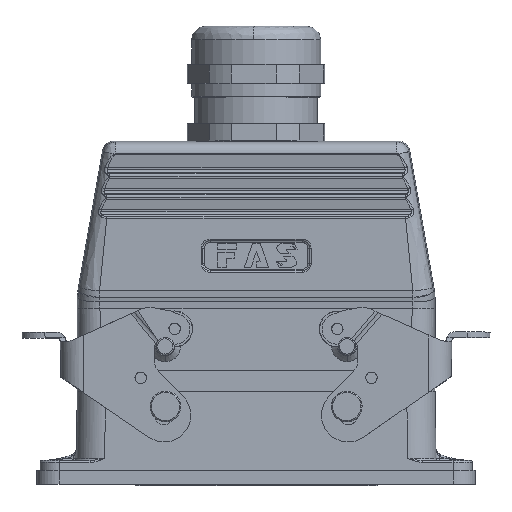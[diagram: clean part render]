
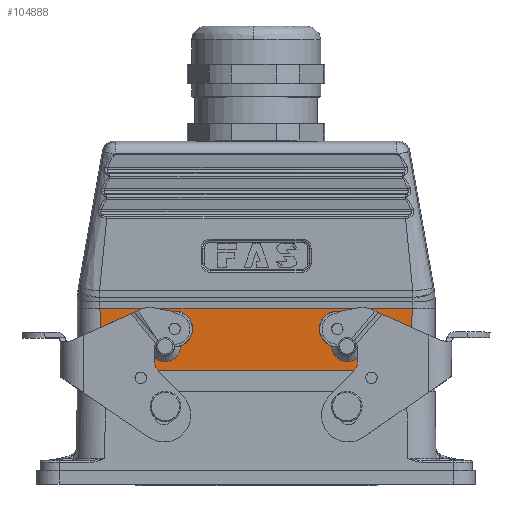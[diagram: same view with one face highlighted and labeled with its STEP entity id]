
A CAD part, top view. The second image highlights one B-rep face of the part: STEP entity #104888.
In plain terms, the highlighted planar face has unit normal (0, 0, 1) as drawn and (0, -1, 0) by its records, which use the part's own axes.
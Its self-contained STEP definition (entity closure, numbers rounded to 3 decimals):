
#657 = CARTESIAN_POINT ( 'NONE',  ( -40.421, -21.5, 8.166 ) ) ;
#2824 = AXIS2_PLACEMENT_3D ( 'NONE', #37104, #13213, #79404 ) ;
#3384 = VERTEX_POINT ( 'NONE', #111759 ) ;
#6299 = DIRECTION ( 'NONE',  ( 0., 0., 1. ) ) ;
#6881 = DIRECTION ( 'NONE',  ( -1., 0., 0. ) ) ;
#7628 = DIRECTION ( 'NONE',  ( 0., 1., 0. ) ) ;
#7682 = VERTEX_POINT ( 'NONE', #87208 ) ;
#9541 = CIRCLE ( 'NONE', #91133, 4. ) ;
#11343 = CARTESIAN_POINT ( 'NONE',  ( -40.44, -21.5, 8.473 ) ) ;
#12212 = CARTESIAN_POINT ( 'NONE',  ( -40.713, -21.5, 13.357 ) ) ;
#12399 = FACE_BOUND ( 'NONE', #167480, .T. ) ;
#13213 = DIRECTION ( 'NONE',  ( 0., 1., 0. ) ) ;
#13937 = CARTESIAN_POINT ( 'NONE',  ( -40.163, -21.5, 4.123 ) ) ;
#14809 = CARTESIAN_POINT ( 'NONE',  ( -40.684, -21.5, 12.782 ) ) ;
#18489 = B_SPLINE_CURVE_WITH_KNOTS ( 'NONE', 3,
 ( #81830, #104807, #67712, #12212, #14809, #147921, #65127, #122323, #160255, #119792, #132103, #146217, #173481, #120646, #11343, #95021, #40414, #38708, #657, #24626, #39565, #66006, #28062, #93301, #27213, #145333, #80987, #134676, #13937, #148794, #121478, #51077, #53659, #161102 ),
 .UNSPECIFIED., .F., .F.,
 ( 4, 1, 1, 1, 1, 1, 2, 2, 1, 1, 1, 1, 1, 1, 1, 2, 2, 1, 1, 1, 1, 1, 1, 2, 2, 4 ),
 ( 0., 0.125, 0.188, 0.219, 0.234, 0.242, 0.246, 0.25, 0.375, 0.438, 0.469, 0.484, 0.492, 0.496, 0.498, 0.499, 0.5, 0.625, 0.688, 0.719, 0.734, 0.742, 0.746, 0.748, 0.75, 1. ),
 .UNSPECIFIED. ) ;
#19300 = CARTESIAN_POINT ( 'NONE',  ( -73.25, -21.5, 16.289 ) ) ;
#20485 = VERTEX_POINT ( 'NONE', #29654 ) ;
#23793 = ORIENTED_EDGE ( 'NONE', *, *, #155435, .F. ) ;
#24626 = CARTESIAN_POINT ( 'NONE',  ( -40.42, -21.5, 8.154 ) ) ;
#24810 = DIRECTION ( 'NONE',  ( 0., -1., 0. ) ) ;
#25998 = CARTESIAN_POINT ( 'NONE',  ( 39.889, -21.5, 0. ) ) ;
#26206 = VERTEX_POINT ( 'NONE', #102342 ) ;
#27213 = CARTESIAN_POINT ( 'NONE',  ( -40.206, -21.5, 4.795 ) ) ;
#27465 = ORIENTED_EDGE ( 'NONE', *, *, #157820, .T. ) ;
#28062 = CARTESIAN_POINT ( 'NONE',  ( -40.331, -21.5, 6.744 ) ) ;
#29654 = CARTESIAN_POINT ( 'NONE',  ( -23.75, -21.5, 2.3 ) ) ;
#35139 = CARTESIAN_POINT ( 'NONE',  ( 40.706, -21.5, 12.744 ) ) ;
#36859 = CARTESIAN_POINT ( 'NONE',  ( 39.889, -21.5, 0. ) ) ;
#37104 = CARTESIAN_POINT ( 'NONE',  ( 23.75, -21.5, 6.3 ) ) ;
#38708 = CARTESIAN_POINT ( 'NONE',  ( -40.422, -21.5, 8.183 ) ) ;
#39565 = CARTESIAN_POINT ( 'NONE',  ( -40.419, -21.5, 8.146 ) ) ;
#40414 = CARTESIAN_POINT ( 'NONE',  ( -40.424, -21.5, 8.225 ) ) ;
#42058 = CARTESIAN_POINT ( 'NONE',  ( 40.845, -21.5, 16.289 ) ) ;
#43090 = LINE ( 'NONE', #111847, #169083 ) ;
#50090 = CARTESIAN_POINT ( 'NONE',  ( 40.012, -21.5, 1.888 ) ) ;
#51077 = CARTESIAN_POINT ( 'NONE',  ( -40.06, -21.5, 2.546 ) ) ;
#51167 = DIRECTION ( 'NONE',  ( 0., 1., 0. ) ) ;
#52044 = DIRECTION ( 'NONE',  ( 0., 0., 1. ) ) ;
#53659 = CARTESIAN_POINT ( 'NONE',  ( -39.97, -21.5, 1.189 ) ) ;
#53831 = FACE_OUTER_BOUND ( 'NONE', #84543, .T. ) ;
#57855 = EDGE_CURVE ( 'NONE', #134303, #7682, #128506, .T. ) ;
#62518 = VECTOR ( 'NONE', #6881, 1000. ) ;
#63222 = VERTEX_POINT ( 'NONE', #25998 ) ;
#64610 = AXIS2_PLACEMENT_3D ( 'NONE', #107566, #24810, #91785 ) ;
#65127 = CARTESIAN_POINT ( 'NONE',  ( -40.662, -21.5, 12.356 ) ) ;
#66006 = CARTESIAN_POINT ( 'NONE',  ( -40.387, -21.5, 7.634 ) ) ;
#67712 = CARTESIAN_POINT ( 'NONE',  ( -40.769, -21.5, 14.531 ) ) ;
#69112 = CARTESIAN_POINT ( 'NONE',  ( 23.75, -21.5, 2.3 ) ) ;
#71456 = ORIENTED_EDGE ( 'NONE', *, *, #87436, .T. ) ;
#72071 = ORIENTED_EDGE ( 'NONE', *, *, #57855, .T. ) ;
#75496 = EDGE_CURVE ( 'NONE', #145163, #155172, #84609, .T. ) ;
#79404 = DIRECTION ( 'NONE',  ( 0., 0., 1. ) ) ;
#80987 = CARTESIAN_POINT ( 'NONE',  ( -40.171, -21.5, 4.255 ) ) ;
#81804 = CIRCLE ( 'NONE', #135244, 4. ) ;
#81830 = CARTESIAN_POINT ( 'NONE',  ( -40.845, -21.5, 16.289 ) ) ;
#84543 = EDGE_LOOP ( 'NONE', ( #129553, #106096, #23793, #72071 ) ) ;
#84609 = CIRCLE ( 'NONE', #2824, 4. ) ;
#87208 = CARTESIAN_POINT ( 'NONE',  ( -40.845, -21.5, 16.289 ) ) ;
#87436 = EDGE_CURVE ( 'NONE', #3384, #20485, #160035, .T. ) ;
#91133 = AXIS2_PLACEMENT_3D ( 'NONE', #168448, #141149, #6299 ) ;
#91690 = CARTESIAN_POINT ( 'NONE',  ( 23.75, -21.5, 6.3 ) ) ;
#91785 = DIRECTION ( 'NONE',  ( 0., 0., -1. ) ) ;
#93301 = CARTESIAN_POINT ( 'NONE',  ( -40.25, -21.5, 5.482 ) ) ;
#95021 = CARTESIAN_POINT ( 'NONE',  ( -40.429, -21.5, 8.308 ) ) ;
#102342 = CARTESIAN_POINT ( 'NONE',  ( -39.889, -21.5, 0. ) ) ;
#104807 = CARTESIAN_POINT ( 'NONE',  ( -40.815, -21.5, 15.576 ) ) ;
#104888 = ADVANCED_FACE ( 'NONE', ( #53831, #133151, #12399 ), #160437, .T. ) ;
#106096 = ORIENTED_EDGE ( 'NONE', *, *, #106521, .T. ) ;
#106521 = EDGE_CURVE ( 'NONE', #26206, #63222, #43090, .T. ) ;
#107566 = CARTESIAN_POINT ( 'NONE',  ( -73.25, -21.5, 0. ) ) ;
#109319 = EDGE_LOOP ( 'NONE', ( #163873, #153599 ) ) ;
#109586 = AXIS2_PLACEMENT_3D ( 'NONE', #129239, #7628, #168025 ) ;
#111759 = CARTESIAN_POINT ( 'NONE',  ( -23.75, -21.5, 10.3 ) ) ;
#111847 = CARTESIAN_POINT ( 'NONE',  ( -13.25, -21.5, 0. ) ) ;
#115110 = EDGE_CURVE ( 'NONE', #155172, #145163, #81804, .T. ) ;
#119792 = CARTESIAN_POINT ( 'NONE',  ( -40.656, -21.5, 12.233 ) ) ;
#120646 = CARTESIAN_POINT ( 'NONE',  ( -40.46, -21.5, 8.799 ) ) ;
#121478 = CARTESIAN_POINT ( 'NONE',  ( -40.16, -21.5, 4.082 ) ) ;
#122323 = CARTESIAN_POINT ( 'NONE',  ( -40.659, -21.5, 12.295 ) ) ;
#128506 = LINE ( 'NONE', #19300, #62518 ) ;
#129239 = CARTESIAN_POINT ( 'NONE',  ( -23.75, -21.5, 6.3 ) ) ;
#129553 = ORIENTED_EDGE ( 'NONE', *, *, #165230, .T. ) ;
#131988 = CARTESIAN_POINT ( 'NONE',  ( 40.845, -21.5, 16.289 ) ) ;
#132103 = CARTESIAN_POINT ( 'NONE',  ( -40.623, -21.5, 11.618 ) ) ;
#133151 = FACE_BOUND ( 'NONE', #109319, .T. ) ;
#134303 = VERTEX_POINT ( 'NONE', #42058 ) ;
#134676 = CARTESIAN_POINT ( 'NONE',  ( -40.165, -21.5, 4.163 ) ) ;
#135244 = AXIS2_PLACEMENT_3D ( 'NONE', #91690, #51167, #52044 ) ;
#141149 = DIRECTION ( 'NONE',  ( 0., 1., 0. ) ) ;
#145163 = VERTEX_POINT ( 'NONE', #69112 ) ;
#145333 = CARTESIAN_POINT ( 'NONE',  ( -40.183, -21.5, 4.437 ) ) ;
#146217 = CARTESIAN_POINT ( 'NONE',  ( -40.571, -21.5, 10.662 ) ) ;
#147921 = CARTESIAN_POINT ( 'NONE',  ( -40.669, -21.5, 12.497 ) ) ;
#148794 = CARTESIAN_POINT ( 'NONE',  ( -40.161, -21.5, 4.097 ) ) ;
#153215 = DIRECTION ( 'NONE',  ( 1., 0., 0. ) ) ;
#153599 = ORIENTED_EDGE ( 'NONE', *, *, #75496, .T. ) ;
#155172 = VERTEX_POINT ( 'NONE', #171833 ) ;
#155435 = EDGE_CURVE ( 'NONE', #134303, #63222, #166320, .T. ) ;
#157820 = EDGE_CURVE ( 'NONE', #20485, #3384, #9541, .T. ) ;
#160035 = CIRCLE ( 'NONE', #109586, 4. ) ;
#160255 = CARTESIAN_POINT ( 'NONE',  ( -40.657, -21.5, 12.255 ) ) ;
#160437 = PLANE ( 'NONE',  #64610 ) ;
#161102 = CARTESIAN_POINT ( 'NONE',  ( -39.889, -21.5, 0. ) ) ;
#163873 = ORIENTED_EDGE ( 'NONE', *, *, #115110, .T. ) ;
#165230 = EDGE_CURVE ( 'NONE', #7682, #26206, #18489, .T. ) ;
#166320 = B_SPLINE_CURVE_WITH_KNOTS ( 'NONE', 3,
 ( #131988, #35139, #170738, #50090, #36859 ),
 .UNSPECIFIED., .F., .F.,
 ( 4, 1, 4 ),
 ( 0., 0.652, 1. ),
 .UNSPECIFIED. ) ;
#167480 = EDGE_LOOP ( 'NONE', ( #71456, #27465 ) ) ;
#168025 = DIRECTION ( 'NONE',  ( 0., 0., 1. ) ) ;
#168448 = CARTESIAN_POINT ( 'NONE',  ( -23.75, -21.5, 6.3 ) ) ;
#169083 = VECTOR ( 'NONE', #153215, 1000. ) ;
#170738 = CARTESIAN_POINT ( 'NONE',  ( 40.377, -21.5, 7.314 ) ) ;
#171833 = CARTESIAN_POINT ( 'NONE',  ( 23.75, -21.5, 10.3 ) ) ;
#173481 = CARTESIAN_POINT ( 'NONE',  ( -40.498, -21.5, 9.438 ) ) ;
